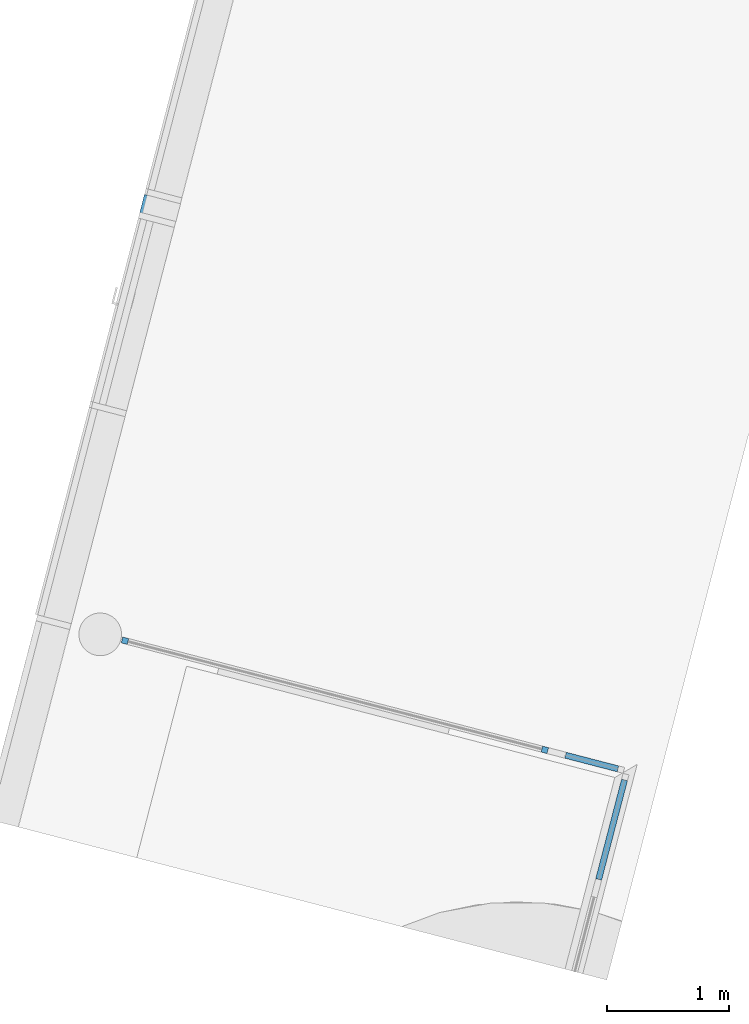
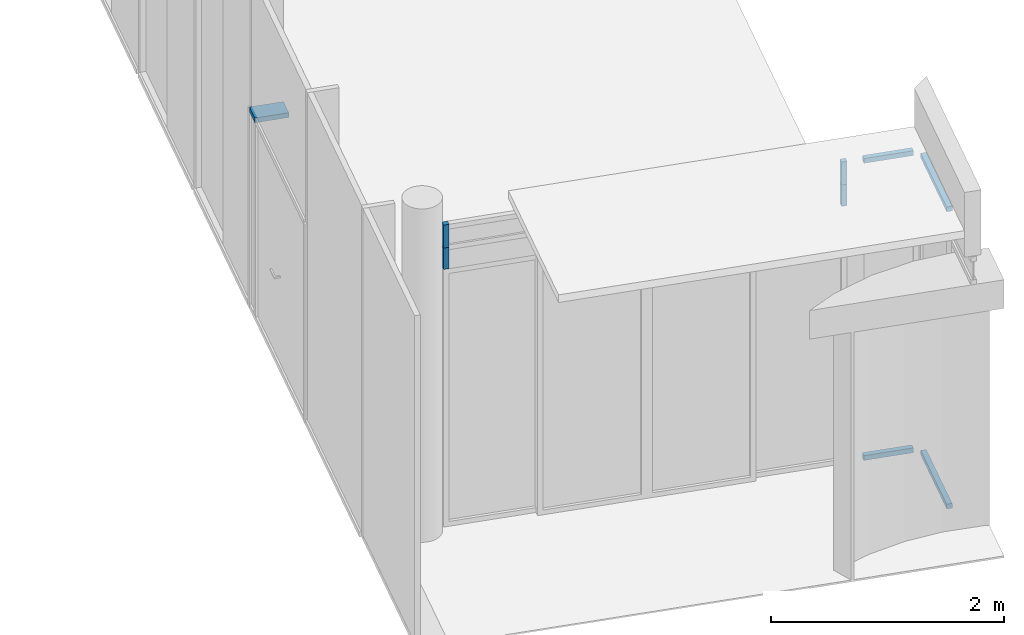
# One storey, part 3 of 9: 9 members, 4 elements without a shape of their own.
"""IFC2X3 building model written with IfcOpenShell, lengths in millimetres."""

import ifcopenshell
import ifcopenshell.guid

model = None  # the IFC model being written
_history = None  # IfcOwnerHistory: only IFC2X3 demands one
_inside = {}  # id of a spatial element -> (the spatial element, [elements in it])
_under = {}  # id of a project, library or spatial element -> (it, [spatial elements below it])
_declared = {}  # id of a project -> (the project, [libraries it declares])
_typed = {}  # id of a type object -> (the type object, [elements of that type])
_made_of = {}  # id of a material, layer set ... -> (it, [elements and type objects made of it])


def new_model(schema):
    """Start an empty IFC model of exactly this schema.

    Asked for "IFC4X3", IfcOpenShell would pick the latest addendum, in which some entities
    have other attributes; the version numbers below select the first issue.
    IFC2X3 requires an IfcOwnerHistory on every rooted entity: one is made here for all.
    """
    global model, _history
    if schema == "IFC4X3":
        model = ifcopenshell.file(schema_version=(4, 3, 0, 0))
    else:
        model = ifcopenshell.file(schema=schema)
    _inside.clear()
    _under.clear()
    _declared.clear()
    _typed.clear()
    _made_of.clear()
    _history = None
    if model.schema == "IFC2X3":
        org = make("IfcOrganization", Name="unknown")
        user = make(
            "IfcPersonAndOrganization",
            ThePerson=make("IfcPerson", FamilyName="unknown"),
            TheOrganization=org,
        )
        app = make(
            "IfcApplication",
            ApplicationDeveloper=org,
            Version="unknown",
            ApplicationFullName="unknown",
            ApplicationIdentifier="unknown",
        )
        _history = make(
            "IfcOwnerHistory",
            OwningUser=user,
            OwningApplication=app,
            ChangeAction="ADDED",
            CreationDate=0,
        )
    return model


def make(cls, **values):
    """One entity of the class cls with the attributes given. An attribute that is None is left unset."""
    return model.create_entity(
        cls, **{name: value for name, value in values.items() if value is not None}
    )


def entity(cls, *values):
    """Any entity or typed value of the class cls, its attributes in the order of the schema. None: left unset."""
    e = model.create_entity(cls)
    for i, value in enumerate(values):
        if value is not None:
            e[i] = value
    return e


def rooted(cls, **values):
    """An entity with a GlobalId (a new one), such as an element, a storey or a relation."""
    return make(cls, GlobalId=ifcopenshell.guid.new(), OwnerHistory=_history, **values)


def si_unit(unit_type, name, prefix=None):
    """IfcSIUnit, for example si_unit("LENGTHUNIT", "METRE", prefix="MILLI")."""
    return make("IfcSIUnit", UnitType=unit_type, Prefix=prefix, Name=name)


def converted_unit(unit_type, name, factor, base, dimensions=None, offset=None):
    """IfcConversionBasedUnit, such as the inch: factor (a typed value) times the base unit."""
    return make(
        "IfcConversionBasedUnit"
        if offset is None
        else "IfcConversionBasedUnitWithOffset",
        ConversionOffset=offset,
        Dimensions=None
        if dimensions is None
        else entity("IfcDimensionalExponents", *dimensions),
        UnitType=unit_type,
        Name=name,
        ConversionFactor=make(
            "IfcMeasureWithUnit", ValueComponent=factor, UnitComponent=base
        ),
    )


def derived_unit(unit_type, elements):
    """IfcDerivedUnit: a product of units, each with its exponent."""
    return make(
        "IfcDerivedUnit",
        Elements=[
            make("IfcDerivedUnitElement", Unit=unit, Exponent=power)
            for unit, power in elements
        ],
        UnitType=unit_type,
    )


def assignment(units):
    """IfcUnitAssignment: the units of a project."""
    return None if units is None else make("IfcUnitAssignment", Units=units)


def point(xyz):
    """IfcCartesianPoint."""
    return None if xyz is None else make("IfcCartesianPoint", Coordinates=xyz)


def direction(xyz):
    """IfcDirection."""
    return None if xyz is None else make("IfcDirection", DirectionRatios=xyz)


def frame(location, z_axis=None, x_axis=None):
    """IfcAxis2Placement3D, a coordinate frame: its origin and axes. An axis left out is left unset."""
    return make(
        "IfcAxis2Placement3D",
        Location=point(location),
        Axis=direction(z_axis),
        RefDirection=direction(x_axis),
    )


def frame_2d(location, x_axis=None):
    """IfcAxis2Placement2D, a coordinate frame in the plane: its origin and x axis."""
    return make(
        "IfcAxis2Placement2D", Location=point(location), RefDirection=direction(x_axis)
    )


def origin():
    """The frame at (0, 0, 0) with its axes left unset."""
    return frame((0.0, 0.0, 0.0))


def origin_with_axes():
    """The frame at (0, 0, 0) with the z axis (0, 0, 1) and the x axis (1, 0, 0) written out."""
    return frame((0.0, 0.0, 0.0), z_axis=(0.0, 0.0, 1.0), x_axis=(1.0, 0.0, 0.0))


def origin_2d_with_axis():
    """The frame at (0, 0) in the plane with the x axis (1, 0) written out."""
    return frame_2d((0.0, 0.0), x_axis=(1.0, 0.0))


def place(relative_to, where):
    """IfcLocalPlacement: puts the frame where relative to a parent placement (None: the world)."""
    return make(
        "IfcLocalPlacement", PlacementRelTo=relative_to, RelativePlacement=where
    )


def context(
    kind, dimensions, precision=None, world=None, true_north=None, identifier=None
):
    """IfcGeometricRepresentationContext, for example the 3D "Model" context."""
    return make(
        "IfcGeometricRepresentationContext",
        ContextIdentifier=identifier,
        ContextType=kind,
        CoordinateSpaceDimension=dimensions,
        Precision=precision,
        WorldCoordinateSystem=world,
        TrueNorth=true_north,
    )


def subcontext(parent, identifier, kind, view, scale=None):
    """IfcGeometricRepresentationSubContext, for example "Body" below "Model"."""
    return make(
        "IfcGeometricRepresentationSubContext",
        ContextIdentifier=identifier,
        ContextType=kind,
        ParentContext=parent,
        TargetScale=scale,
        TargetView=view,
    )


def project(units=None, contexts=None):
    """IfcProject with its units and contexts."""
    return rooted(
        "IfcProject",
        Name="project",
        RepresentationContexts=contexts,
        UnitsInContext=assignment(units),
    )


def spatial(cls, under=None, at=None, **own):
    """A site, building, storey or space (cls), placed at a placement, below another one or the project."""
    s = rooted(cls, ObjectPlacement=at, **own)
    if under is not None:
        _under.setdefault(under.id(), (under, []))[1].append(s)
    return s


def profile(cls, at=None, kind="AREA", **sizes):
    """A parametric profile (cls). Its sizes go by their IFC names, for example OverallWidth=200.0."""
    return make(cls, ProfileType=kind, Position=at, **sizes)


def rectangle(**sizes):
    """IfcRectangleProfileDef."""
    return profile("IfcRectangleProfileDef", **sizes)


def extrude(swept, where, along, depth):
    """IfcExtrudedAreaSolid: the profile swept, set in the frame where, extruded along a direction by depth."""
    return make(
        "IfcExtrudedAreaSolid",
        SweptArea=swept,
        Position=where,
        ExtrudedDirection=direction(along),
        Depth=depth,
    )


def shape(context_of_items, identifier, shape_type, items):
    """IfcShapeRepresentation: the items that make up one representation, for example the "Body"."""
    return make(
        "IfcShapeRepresentation",
        ContextOfItems=context_of_items,
        RepresentationIdentifier=identifier,
        RepresentationType=shape_type,
        Items=items,
    )


def source(mapping_origin, context_of_items, identifier, shape_type, items):
    """IfcRepresentationMap: a shape defined once, which mapped items show again and again."""
    return make(
        "IfcRepresentationMap",
        MappingOrigin=mapping_origin,
        MappedRepresentation=shape(context_of_items, identifier, shape_type, items),
    )


def transform(
    local_origin,
    x_axis=None,
    y_axis=None,
    z_axis=None,
    scale=None,
    scale2=None,
    scale3=None,
    uniform=True,
):
    """IfcCartesianTransformationOperator3D, or its non-uniform kind. x_axis, y_axis, z_axis: its Axis1, 2, 3."""
    if uniform:
        return make(
            "IfcCartesianTransformationOperator3D",
            Axis1=direction(x_axis),
            Axis2=direction(y_axis),
            LocalOrigin=point(local_origin),
            Scale=scale,
            Axis3=direction(z_axis),
        )
    return make(
        "IfcCartesianTransformationOperator3DnonUniform",
        Axis1=direction(x_axis),
        Axis2=direction(y_axis),
        LocalOrigin=point(local_origin),
        Scale=scale,
        Axis3=direction(z_axis),
        Scale2=scale2,
        Scale3=scale3,
    )


def mapped(mapping_source, mapping_target):
    """IfcMappedItem: shows the shape of a source again, moved by a transform."""
    return make(
        "IfcMappedItem", MappingSource=mapping_source, MappingTarget=mapping_target
    )


def material(Name=None, Category=None):
    """IfcMaterial."""
    return make("IfcMaterial", Name=Name, Category=Category)


def made_of(thing, what):
    """Note that an element or type object is made of a material, layer set ...; save() writes the relation."""
    if what is not None:
        _made_of.setdefault(what.id(), (what, []))[1].append(thing)
    return thing


def type_object(cls, material=None, **own):
    """A type object (cls), such as IfcWallType, which elements share."""
    return made_of(rooted(cls, **own), material)


def element(
    cls,
    number,
    at=None,
    inside=None,
    cuts=None,
    type_object=None,
    material=None,
    context=None,
    identifier="Body",
    shape_type=None,
    held_by="IfcProductDefinitionShape",
    body=None,
    shapes=None,
    **own,
):
    """One element of the class cls, such as IfcWall. Its Tag is "e" and its number.

    at: its placement. inside: the storey or other place that contains it. cuts: it is an
    opening in that element (IfcRelVoidsElement). A single representation is given by context,
    identifier, shape_type and body (its items); several are given by shapes. held_by: the class
    of the entity that holds the representations. save() writes the other relations.
    """
    e = rooted(cls, Tag="e%d" % number, ObjectPlacement=at, **own)
    if body is not None:
        shapes = [shape(context, identifier, shape_type, body)]
    if shapes is not None:
        e.Representation = make(held_by, Representations=shapes)
    if inside is not None:
        _inside.setdefault(inside.id(), (inside, []))[1].append(e)
    if cuts is not None:
        rooted(
            "IfcRelVoidsElement", RelatingBuildingElement=cuts, RelatedOpeningElement=e
        )
    if type_object is not None:
        _typed.setdefault(type_object.id(), (type_object, []))[1].append(e)
    return made_of(e, material)


def aggregate(whole, parts):
    """IfcRelAggregates: a whole, such as a stair, and the parts it consists of."""
    return rooted("IfcRelAggregates", RelatingObject=whole, RelatedObjects=parts)


def save(model, path):
    """Write the relations noted so far, then the file.

    IfcRelAggregates (storeys below a building ...), IfcRelContainedInSpatialStructure (elements
    in a storey), IfcRelDefinesByType, IfcRelAssociatesMaterial and IfcRelDeclares: one each for
    every whole, place, type object, material and project.
    """
    for whole, parts in _under.values():
        aggregate(whole, parts)
    for where, things in _inside.values():
        rooted(
            "IfcRelContainedInSpatialStructure",
            RelatedElements=things,
            RelatingStructure=where,
        )
    for kind, things in _typed.values():
        rooted("IfcRelDefinesByType", RelatedObjects=things, RelatingType=kind)
    for what, things in _made_of.values():
        rooted("IfcRelAssociatesMaterial", RelatedObjects=things, RelatingMaterial=what)
    for by, libraries in _declared.values():
        rooted("IfcRelDeclares", RelatingContext=by, RelatedDefinitions=libraries)
    model.write(path)


model = new_model("IFC2X3")

# Units and contexts
model_context = context("Model", 3, precision=0.01, world=origin(), true_north=direction((6.12323399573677e-17, 1.0)))
plan_context = context("Plan", 3, precision=1e-05, world=origin_with_axes())
body_context = subcontext(model_context, "Body", "Model", "MODEL_VIEW")
ifc_project = project(units=[converted_unit("PLANEANGLEUNIT", "DEGREE", entity("IfcPositiveLengthMeasure", 0.0174532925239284), si_unit("PLANEANGLEUNIT", "RADIAN"), dimensions=[0, 0, 0, 0, 0, 0, 0]), si_unit("AREAUNIT", "SQUARE_METRE"), si_unit("LENGTHUNIT", "METRE", prefix="MILLI"), si_unit("MASSUNIT", "GRAM", prefix="KILO"), si_unit("POWERUNIT", "WATT"), si_unit("PRESSUREUNIT", "PASCAL", prefix="KILO"), si_unit("FORCEUNIT", "NEWTON", prefix="KILO"), si_unit("ELECTRICVOLTAGEUNIT", "VOLT"), si_unit("ELECTRICCURRENTUNIT", "AMPERE"), si_unit("THERMODYNAMICTEMPERATUREUNIT", "DEGREE_CELSIUS"), si_unit("TIMEUNIT", "SECOND"), si_unit("VOLUMEUNIT", "CUBIC_METRE"), derived_unit("LINEARVELOCITYUNIT", [(si_unit("LENGTHUNIT", "METRE"), 1), (si_unit("TIMEUNIT", "SECOND"), -1)]), derived_unit("VOLUMETRICFLOWRATEUNIT", [(si_unit("VOLUMEUNIT", "CUBIC_METRE"), 1), (si_unit("TIMEUNIT", "SECOND"), -1)]), derived_unit("THERMALTRANSMITTANCEUNIT", [(si_unit("POWERUNIT", "WATT"), 1), (si_unit("THERMODYNAMICTEMPERATUREUNIT", "KELVIN"), -1), (si_unit("AREAUNIT", "SQUARE_METRE"), -1)]), derived_unit("SOUNDPRESSUREUNIT", [(si_unit("PRESSUREUNIT", "PASCAL"), 1)])], contexts=[model_context, plan_context])

# Site, building, storey
site_placement = place(None, frame((0.0, -2.21771188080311e-09, 0.0), z_axis=(0.0, 0.0, 1.0), x_axis=(0.266093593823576, -0.963947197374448, 0.0)))
site = spatial("IfcSite", under=ifc_project, at=site_placement, Name="ENZV", CompositionType="ELEMENT")
building_placement = place(site_placement, origin_with_axes())
building = spatial("IfcBuilding", under=site, at=building_placement, Name="ZV001", CompositionType="ELEMENT")
storey_placement = place(building_placement, frame((0.0, 0.0, 5100.0), z_axis=(0.0, 0.0, 1.0), x_axis=(1.0, 0.0, 0.0)))
storey = spatial("IfcBuildingStorey", under=building, at=storey_placement, Name="H01", CompositionType="ELEMENT", Elevation=5100.0)

# Curtain wall, members
curtain_wall_type_1 = type_object("IfcCurtainWallType", Name="Curtain Wall:Glassvegg 24 dB", PredefinedType="NOTDEFINED")
curtain_wall_1_placement = place(storey_placement, frame((0.0, 0.0, -5100.0), z_axis=(0.0, 0.0, 1.0), x_axis=(1.0, 0.0, 0.0)))
curtain_wall_1 = element("IfcCurtainWall", 1, at=curtain_wall_1_placement, inside=storey, type_object=curtain_wall_type_1, Name="Curtain Wall:Glassvegg 24 dB", ObjectType="Curtain Wall:Glassvegg 24 dB")
ifc_material = material(Name="Aluminium")
member_type_1 = type_object("IfcMemberType", Name="Rectangular Mullion:ENZV_50x50mm uten offset", PredefinedType="MULLION", material=ifc_material)
shared_shape_1 = source(origin(), body_context, "Body", "SweptSolid", [
    extrude(rectangle(XDim=50.0, YDim=50.0, at=origin_2d_with_axis()), frame((-25.0, 0.0, -839.999999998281), z_axis=(0.0, 0.0, 1.0), x_axis=(-1.0, 0.0, 0.0)), (0.0, 0.0, 1.0), 839.999999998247),
])
member_1_placement = place(curtain_wall_1_placement, frame((-156155.895620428, 370632.432587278, 8290.0), z_axis=(0.866025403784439, -0.5, 0.0), x_axis=(0.0, 0.0, 1.0)))
member_1 = element("IfcMember", 2, at=member_1_placement, type_object=member_type_1, material=ifc_material, Name="Rectangular Mullion:ENZV_50x50mm uten offset", ObjectType="Rectangular Mullion:ENZV_50x50mm uten offset", context=body_context, shape_type="MappedRepresentation", body=[
    mapped(shared_shape_1, transform((0.0, 0.0, 0.0), scale=1.0)),
])
member_type_2 = type_object("IfcMemberType", Name="Rectangular Mullion:ENZV_50x50mm uten offset", PredefinedType="MULLION", material=ifc_material)
shared_shape_2 = source(origin(), body_context, "Body", "SweptSolid", [
    extrude(rectangle(XDim=50.0, YDim=50.0, at=origin_2d_with_axis()), frame((-25.0, 0.0, -839.999999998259), z_axis=(0.0, 0.0, 1.0), x_axis=(-1.0, 0.0, 0.0)), (0.0, 0.0, 1.0), 839.999999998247),
])
member_2_placement = place(curtain_wall_1_placement, frame((-156883.356963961, 371052.432579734, 5120.0), z_axis=(-0.866025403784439, 0.5, 0.0), x_axis=(0.0, 0.0, -1.0)))
member_2 = element("IfcMember", 3, at=member_2_placement, type_object=member_type_2, material=ifc_material, Name="Rectangular Mullion:ENZV_50x50mm uten offset", ObjectType="Rectangular Mullion:ENZV_50x50mm uten offset", context=body_context, shape_type="MappedRepresentation", body=[
    mapped(shared_shape_2, transform((0.0, 0.0, 0.0), scale=1.0)),
])
aggregate(curtain_wall_1, [member_1, member_2])

curtain_wall_2_placement = place(storey_placement, frame((0.0, 0.0, -5100.0), z_axis=(0.0, 0.0, 1.0), x_axis=(1.0, 0.0, 0.0)))
curtain_wall_2 = element("IfcCurtainWall", 4, at=curtain_wall_2_placement, inside=storey, type_object=curtain_wall_type_1, Name="Curtain Wall:Glassvegg 24 dB", ObjectType="Curtain Wall:Glassvegg 24 dB")
member_type_3 = type_object("IfcMemberType", Name="Rectangular Mullion:ENZV_50x50mm uten offset", PredefinedType="MULLION", material=ifc_material)
shared_shape_3 = source(origin(), body_context, "Body", "SweptSolid", [
    extrude(rectangle(XDim=50.0, YDim=50.0, at=origin_2d_with_axis()), frame((-25.0, 0.0, -241.0), z_axis=(0.0, 0.0, 1.0), x_axis=(-1.0, 0.0, 0.0)), (0.0, 0.0, 1.0), 241.000000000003),
])
member_3_placement = place(curtain_wall_2_placement, frame((-159082.285322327, 367393.776852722, 8290.0), z_axis=(0.0, 0.0, 1.0), x_axis=(-0.5, -0.866025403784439, 0.0)))
member_3 = element("IfcMember", 5, at=member_3_placement, type_object=member_type_3, material=ifc_material, Name="Rectangular Mullion:ENZV_50x50mm uten offset", ObjectType="Rectangular Mullion:ENZV_50x50mm uten offset", context=body_context, shape_type="MappedRepresentation", body=[
    mapped(shared_shape_3, transform((0.0, 0.0, 0.0), scale=1.0)),
])
member_type_4 = type_object("IfcMemberType", Name="Rectangular Mullion:ENZV_50x50mm uten offset", PredefinedType="MULLION", material=ifc_material)
member_4_placement = place(curtain_wall_2_placement, frame((-157282.39069801, 370511.285864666, 8049.0), z_axis=(0.0, 0.0, -1.0), x_axis=(0.5, 0.866025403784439, 0.0)))
member_4 = element("IfcMember", 6, at=member_4_placement, type_object=member_type_4, material=ifc_material, Name="Rectangular Mullion:ENZV_50x50mm uten offset", ObjectType="Rectangular Mullion:ENZV_50x50mm uten offset", context=body_context, shape_type="MappedRepresentation", body=[
    mapped(shared_shape_3, transform((0.0, 0.0, 0.0), scale=1.0)),
])
member_type_5 = type_object("IfcMemberType", Name="Rectangular Mullion:ENZV_50x50mm uten offset", PredefinedType="MULLION", material=ifc_material)
shared_shape_4 = source(origin(), body_context, "Body", "SweptSolid", [
    extrude(rectangle(XDim=50.0, YDim=50.0, at=origin_2d_with_axis()), frame((-25.0, 0.0, -225.0), z_axis=(0.0, 0.0, 1.0), x_axis=(-1.0, 0.0, 0.0)), (0.0, 0.0, 1.0), 225.0),
])
member_5_placement = place(curtain_wall_2_placement, frame((-159082.285322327, 367393.776852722, 8049.0), z_axis=(0.0, 0.0, 1.0), x_axis=(-0.5, -0.866025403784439, 0.0)))
member_5 = element("IfcMember", 7, at=member_5_placement, type_object=member_type_5, material=ifc_material, Name="Rectangular Mullion:ENZV_50x50mm uten offset", ObjectType="Rectangular Mullion:ENZV_50x50mm uten offset", context=body_context, shape_type="MappedRepresentation", body=[
    mapped(shared_shape_4, transform((0.0, 0.0, 0.0), scale=1.0)),
])
member_type_6 = type_object("IfcMemberType", Name="Rectangular Mullion:ENZV_50x50mm uten offset", PredefinedType="MULLION", material=ifc_material)
member_6_placement = place(curtain_wall_2_placement, frame((-157282.39069801, 370511.285864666, 7824.0), z_axis=(0.0, 0.0, -1.0), x_axis=(0.5, 0.866025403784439, 0.0)))
member_6 = element("IfcMember", 8, at=member_6_placement, type_object=member_type_6, material=ifc_material, Name="Rectangular Mullion:ENZV_50x50mm uten offset", ObjectType="Rectangular Mullion:ENZV_50x50mm uten offset", context=body_context, shape_type="MappedRepresentation", body=[
    mapped(shared_shape_4, transform((0.0, 0.0, 0.0), scale=1.0)),
])
aggregate(curtain_wall_2, [member_3, member_5, member_4, member_6])

curtain_wall_3_placement = place(storey_placement, frame((0.0, 0.0, -5100.0), z_axis=(0.0, 0.0, 1.0), x_axis=(1.0, 0.0, 0.0)))
curtain_wall_3 = element("IfcCurtainWall", 9, at=curtain_wall_3_placement, inside=storey, type_object=curtain_wall_type_1, Name="Curtain Wall:Glassvegg 24 dB", ObjectType="Curtain Wall:Glassvegg 24 dB")
member_type_7 = type_object("IfcMemberType", Name="Rectangular Mullion:ENZV_50x50mm uten offset", PredefinedType="MULLION", material=ifc_material)
shared_shape_5 = source(origin(), body_context, "Body", "SweptSolid", [
    extrude(rectangle(XDim=50.0, YDim=50.0, at=origin_2d_with_axis()), frame((-25.0, 0.0, -443.163668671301), z_axis=(0.0, 0.0, 1.0), x_axis=(-1.0, 0.0, 0.0)), (0.0, 0.0, 1.0), 443.163668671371),
])
member_7_placement = place(curtain_wall_3_placement, frame((-157207.39069931, 370641.189675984, 5120.0), z_axis=(-0.5, -0.866025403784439, 0.0), x_axis=(0.0, 0.0, -1.0)))
member_7 = element("IfcMember", 10, at=member_7_placement, type_object=member_type_7, material=ifc_material, Name="Rectangular Mullion:ENZV_50x50mm uten offset", ObjectType="Rectangular Mullion:ENZV_50x50mm uten offset", context=body_context, shape_type="MappedRepresentation", body=[
    mapped(shared_shape_5, transform((0.0, 0.0, 0.0), scale=1.0)),
])
member_type_8 = type_object("IfcMemberType", Name="Rectangular Mullion:ENZV_50x50mm uten offset", PredefinedType="MULLION", material=ifc_material)
shared_shape_6 = source(origin(), body_context, "Body", "SweptSolid", [
    extrude(rectangle(XDim=50.0, YDim=50.0, at=origin_2d_with_axis()), frame((-25.0, 0.0, -443.163668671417), z_axis=(0.0, 0.0, 1.0), x_axis=(-1.0, 0.0, 0.0)), (0.0, 0.0, 1.0), 443.163668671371),
])
member_8_placement = place(curtain_wall_3_placement, frame((-156985.808868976, 371024.980673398, 8290.0), z_axis=(0.5, 0.866025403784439, 0.0), x_axis=(0.0, 0.0, 1.0)))
member_8 = element("IfcMember", 11, at=member_8_placement, type_object=member_type_8, material=ifc_material, Name="Rectangular Mullion:ENZV_50x50mm uten offset", ObjectType="Rectangular Mullion:ENZV_50x50mm uten offset", context=body_context, shape_type="MappedRepresentation", body=[
    mapped(shared_shape_6, transform((0.0, 0.0, 0.0), scale=1.0)),
])
aggregate(curtain_wall_3, [member_7, member_8])

# Curtain wall, member
curtain_wall_type_2 = type_object("IfcCurtainWallType", Name="Curtain Wall:Curtain Wall glass 125mm ut", PredefinedType="NOTDEFINED")
curtain_wall_4_placement = place(storey_placement, frame((0.0, 0.0, -5100.0), z_axis=(0.0, 0.0, 1.0), x_axis=(1.0, 0.0, 0.0)))
curtain_wall_4 = element("IfcCurtainWall", 12, at=curtain_wall_4_placement, inside=storey, type_object=curtain_wall_type_2, Name="Curtain Wall:Curtain Wall glass 125mm ut", ObjectType="Curtain Wall:Curtain Wall glass 125mm ut")
member_type_9 = type_object("IfcMemberType", Name="Rectangular Mullion:ENZV_304x50mm", PredefinedType="MULLION", material=ifc_material)
shared_shape_7 = source(origin(), body_context, "Body", "SweptSolid", [
    extrude(rectangle(XDim=50.0, YDim=304.0, at=origin_2d_with_axis()), frame((0.0, 0.0, -175.0), z_axis=(0.0, 0.0, 1.0), x_axis=(-1.0, 0.0, 0.0)), (0.0, 0.0, 1.0), 174.999999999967),
])
member_9_placement = place(curtain_wall_4_placement, frame((-162471.836797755, 368672.806266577, 7215.0), z_axis=(-0.866025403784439, 0.5, 0.0), x_axis=(0.0, 0.0, 1.0)))
member_9 = element("IfcMember", 13, at=member_9_placement, type_object=member_type_9, material=ifc_material, Name="Rectangular Mullion:ENZV_304x50mm", ObjectType="Rectangular Mullion:ENZV_304x50mm", context=body_context, shape_type="MappedRepresentation", body=[
    mapped(shared_shape_7, transform((0.0, 0.0, 0.0), scale=1.0)),
])
aggregate(curtain_wall_4, [member_9])

save(model, "model.ifc")
